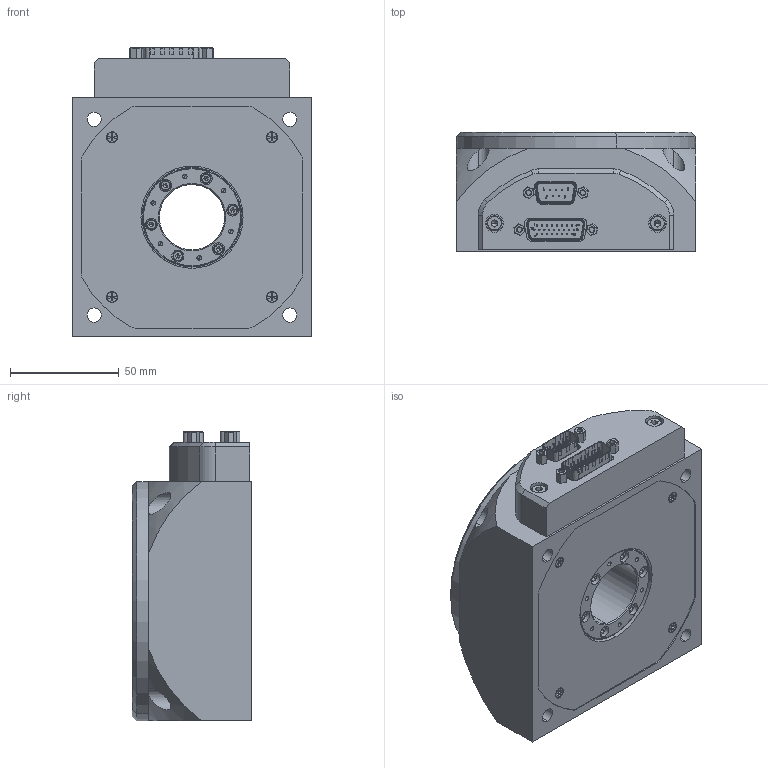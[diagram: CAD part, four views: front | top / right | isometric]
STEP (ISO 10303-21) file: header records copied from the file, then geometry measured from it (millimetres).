
FILE_DESCRIPTION (( 'STEP AP214' ), '1' );
FILE_NAME ('RTS-DD-100-EXPORT .STEP', '2025-07-07T15:10:22', ( 'lab' ), ( '' ), 'SwSTEP 2.0', 'SolidWorks 2018', '' );
FILE_SCHEMA (( 'AUTOMOTIVE_DESIGN' ));
Length unit declared in the file: millimetre
Products named in the file (6): 1000002_file_export3; 1000001_file_export0; RTS-DD-100-EXPORT ; 1000005_file_export6; 1000004_file_export2; 1000003_file_export7
Assembly tree (8 placements, depth 2):
  RTS-DD-100-EXPORT 
    1000001_file_export0
    1000002_file_export3
    1000003_file_export7  x4
    1000004_file_export2
    1000005_file_export6
Bounding box: 110 x 55 x 133.2 mm (x, y, z)
Volume: 631365.5 mm3; surface area: 93359.9 mm2
Topology: 57 solids, 57 shells, 1178 faces, 2646 edges, 1628 vertices
Faces by surface type: plane 616, cylinder 276, bspline 170, cone 110, sphere 4, torus 2
Entity records: 41652 total; most frequent: CARTESIAN_POINT 11839, ORIENTED_EDGE 4912, DIRECTION 4840, EDGE_CURVE 2456, AXIS2_PLACEMENT_3D 1737, VERTEX_POINT 1544, VECTOR 1366, LINE 1366
